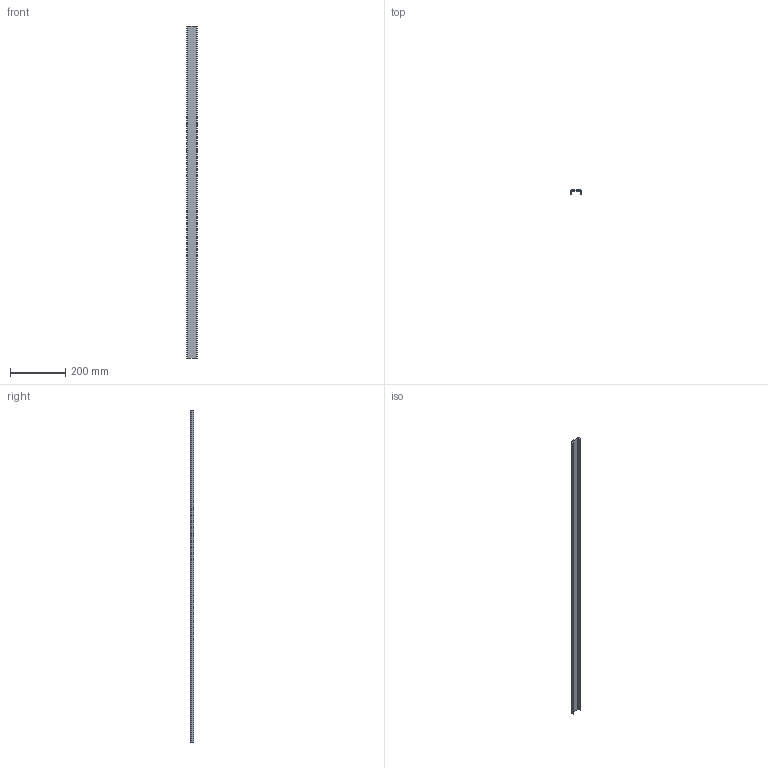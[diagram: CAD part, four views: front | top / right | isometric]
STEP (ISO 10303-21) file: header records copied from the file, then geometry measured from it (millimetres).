
FILE_DESCRIPTION (( 'STEP AP214' ), '1' );
FILE_NAME ('995-100 035 Welding-shield_window_1200.STEP', '2017-01-25T12:36:07', ( 'Rockwell Automation' ), ( 'Rockwell Automation' ), 'SwSTEP 2.0', 'SolidWorks 2014', '' );
FILE_SCHEMA (( 'AUTOMOTIVE_DESIGN' ));
Length unit declared in the file: millimetre
Products named in the file (1): 995-100 035 Welding-shield_window_1200
Bounding box: 38.1 x 12.7 x 1200 mm (x, y, z)
Volume: 197506.7 mm3; surface area: 139200.3 mm2
Topology: 1 solids, 1 shells, 14 faces, 36 edges, 24 vertices
Faces by surface type: plane 10, cylinder 4
Entity records: 616 total; most frequent: CARTESIAN_POINT 75, DIRECTION 74, ORIENTED_EDGE 72, EDGE_CURVE 36, VECTOR 28, LINE 28, VERTEX_POINT 24, AXIS2_PLACEMENT_3D 23
